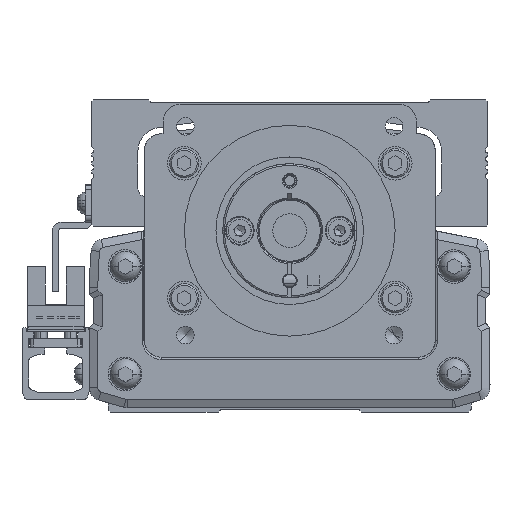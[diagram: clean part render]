
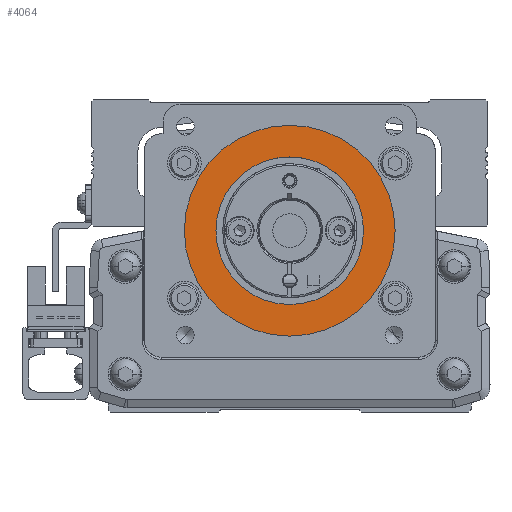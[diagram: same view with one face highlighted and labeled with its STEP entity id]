
A CAD part, front view. The second image highlights one B-rep face of the part: STEP entity #4064.
In plain terms, the highlighted planar face has unit normal (0, -1, 0).
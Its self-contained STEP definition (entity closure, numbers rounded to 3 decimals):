
#4064=ADVANCED_FACE('',(#11271,#11272),#11273,.T.);
#11271=FACE_BOUND('',#22382,.T.);
#11272=FACE_OUTER_BOUND('',#22383,.T.);
#11273=PLANE('',#22384);
#22382=EDGE_LOOP('',(#35436,#35437));
#22383=EDGE_LOOP('',(#35438,#35439));
#22384=AXIS2_PLACEMENT_3D('',#35440,#35441,#35442);
#35436=ORIENTED_EDGE('',*,*,#66462,.T.);
#35437=ORIENTED_EDGE('',*,*,#66463,.T.);
#35438=ORIENTED_EDGE('',*,*,#66464,.F.);
#35439=ORIENTED_EDGE('',*,*,#66465,.F.);
#35440=CARTESIAN_POINT('',(0.,39.222,0.));
#35441=DIRECTION('',(0.,-1.0,0.));
#35442=DIRECTION('',(1.0,0.,0.));
#66462=EDGE_CURVE('',#78928,#78929,#78930,.T.);
#66463=EDGE_CURVE('',#78929,#78928,#78931,.T.);
#66464=EDGE_CURVE('',#78932,#78933,#78934,.T.);
#66465=EDGE_CURVE('',#78933,#78932,#78935,.T.);
#78928=VERTEX_POINT('',#96936);
#78929=VERTEX_POINT('',#96937);
#78930=CIRCLE('',#96938,17.5);
#78931=CIRCLE('',#96939,17.5);
#78932=VERTEX_POINT('',#96940);
#78933=VERTEX_POINT('',#96941);
#78934=CIRCLE('',#96942,25.0);
#78935=CIRCLE('',#96943,25.0);
#96936=CARTESIAN_POINT('',(17.5,39.222,0.));
#96937=CARTESIAN_POINT('',(-17.5,39.222,0.));
#96938=AXIS2_PLACEMENT_3D('',#122203,#122204,#122205);
#96939=AXIS2_PLACEMENT_3D('',#122206,#122207,#122208);
#96940=CARTESIAN_POINT('',(25.,39.222,0.));
#96941=CARTESIAN_POINT('',(-25.,39.222,0.));
#96942=AXIS2_PLACEMENT_3D('',#122209,#122210,#122211);
#96943=AXIS2_PLACEMENT_3D('',#122212,#122213,#122214);
#122203=CARTESIAN_POINT('',(0.,39.222,0.));
#122204=DIRECTION('',(0.,1.0,0.));
#122205=DIRECTION('',(-1.0,0.,0.));
#122206=CARTESIAN_POINT('',(0.,39.222,0.));
#122207=DIRECTION('',(0.,1.0,0.));
#122208=DIRECTION('',(-1.0,0.,0.));
#122209=CARTESIAN_POINT('',(0.,39.222,0.));
#122210=DIRECTION('',(0.,1.0,0.));
#122211=DIRECTION('',(1.0,0.,0.));
#122212=CARTESIAN_POINT('',(0.,39.222,0.));
#122213=DIRECTION('',(0.,1.0,0.));
#122214=DIRECTION('',(1.0,0.,0.));
